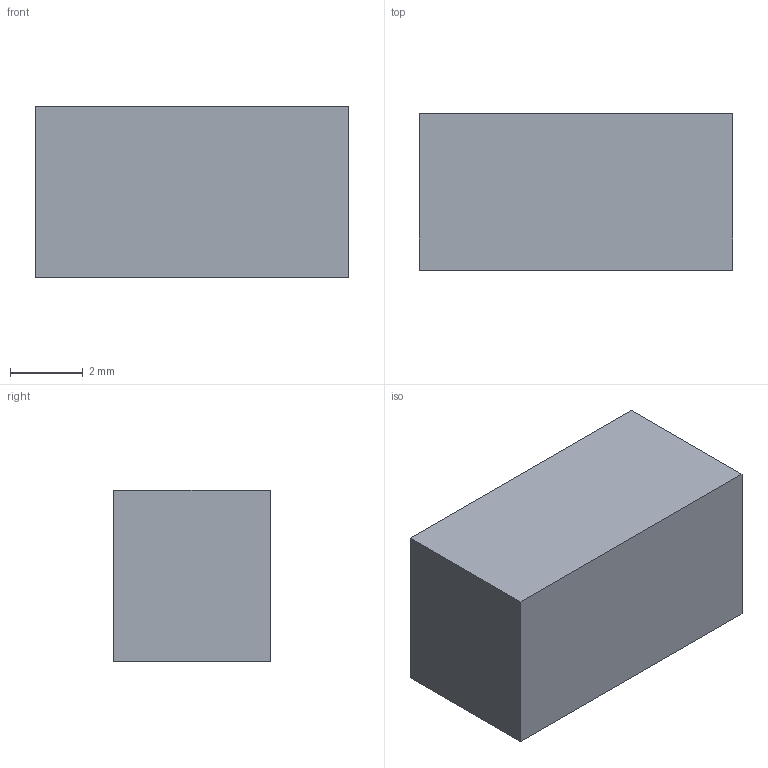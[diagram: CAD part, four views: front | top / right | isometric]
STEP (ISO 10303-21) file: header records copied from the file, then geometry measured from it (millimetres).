
FILE_DESCRIPTION(('Open CASCADE Model'),'2;1');
FILE_NAME('Open CASCADE Shape Model','2026-08-28T00:57:55',('Author'),( 'Open CASCADE'),'Open CASCADE STEP processor 7.8','Open CASCADE 7.8' ,'Unknown');
FILE_SCHEMA(('AUTOMOTIVE_DESIGN { 1 0 10303 214 1 1 1 1 }'));
Length unit declared in the file: millimetre
Products named in the file (1): Open CASCADE STEP translator 7.8 11
Bounding box: 8.6 x 4.3 x 4.7 mm (x, y, z)
Volume: 173.8 mm3; surface area: 195.2 mm2
Topology: 1 solids, 1 shells, 6 faces, 12 edges, 8 vertices
Faces by surface type: plane 6
Entity records: 322 total; most frequent: CARTESIAN_POINT 51, DIRECTION 50, LINE 36, VECTOR 36, ORIENTED_EDGE 24, PCURVE 24, DEFINITIONAL_REPRESENTATION 24, EDGE_CURVE 12
